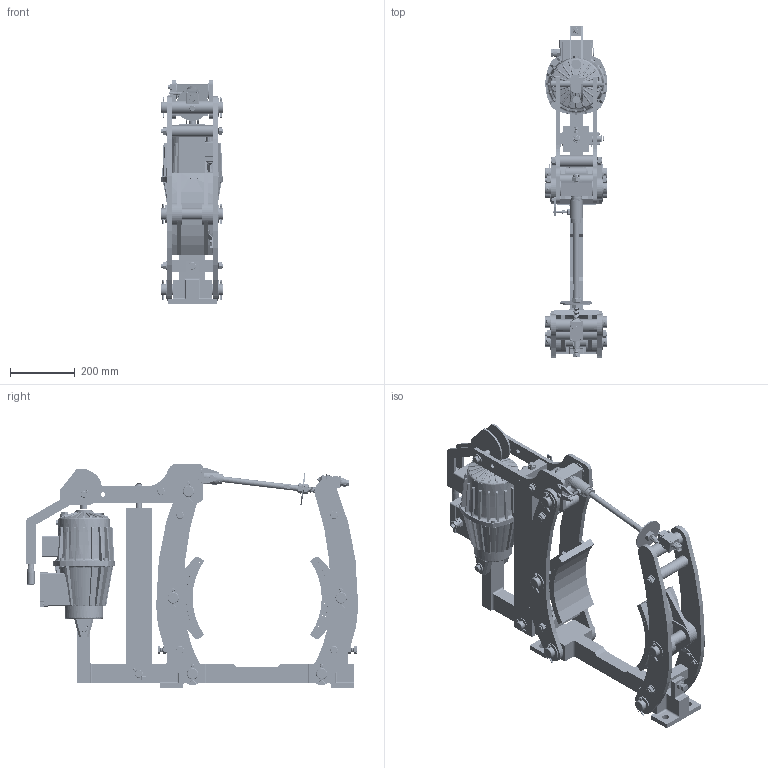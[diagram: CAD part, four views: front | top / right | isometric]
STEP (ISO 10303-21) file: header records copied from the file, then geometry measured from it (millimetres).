
FILE_DESCRIPTION((''),'2;1');
FILE_NAME('4459_404_552_E00001','2018-01-30T',('VORO'),(''),'CREO PARAMETRIC BY PTC INC, 2017170','CREO PARAMETRIC BY PTC INC, 2017170','');
FILE_SCHEMA(('CONFIG_CONTROL_DESIGN'));
Products named in the file (1): 4459_404_552_E00001
Bounding box: 194.01 x 1027.57 x 695.5 mm (x, y, z)
Surface area: 2967586.9 mm2 (no closed solid volume)
Topology: 0 solids, 3399 shells, 4026 faces, 25292 edges, 23978 vertices
Faces by surface type: plane 1663, cylinder 1388, cone 724, torus 229, bspline 18, sphere 4
Entity records: 435876 total; most frequent: CARTESIAN_POINT 141160, PRESENTATION_STYLE_ASSIGNMENT 32673, STYLED_ITEM 28655, DIRECTION 27491, ORIENTED_EDGE 26565, CURVE_STYLE 25264, EDGE_CURVE 25264, VERTEX_POINT 23974
